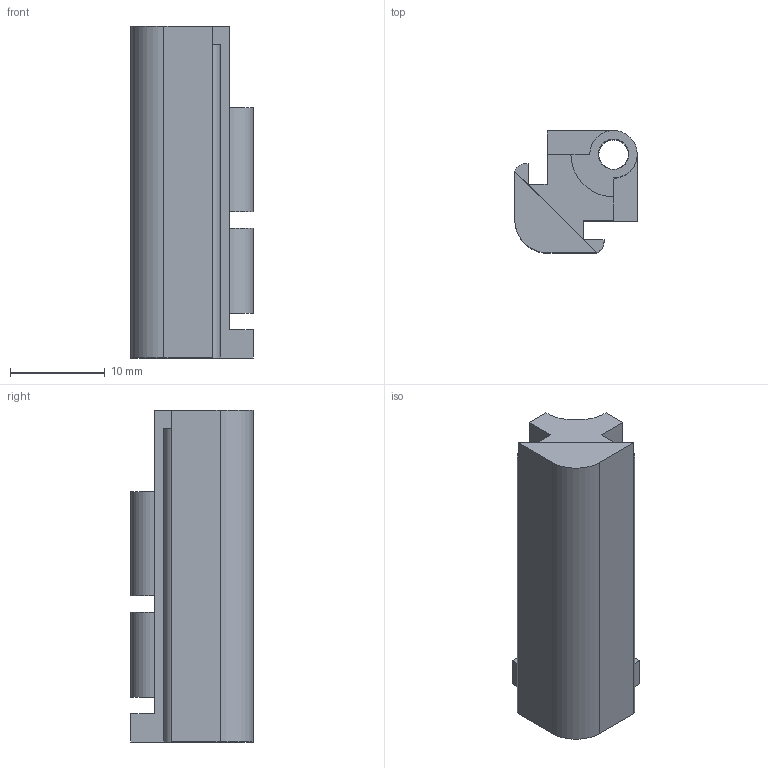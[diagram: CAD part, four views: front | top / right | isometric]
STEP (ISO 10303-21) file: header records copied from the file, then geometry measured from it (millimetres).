
FILE_DESCRIPTION(/* description */ (''),/* implementation_level */ '2;1');
FILE_NAME(/* name */ 'C:/Users/Ken.Diep/repos/hardware/Structure/Fusion/pillar v9.step',/* time_stamp */ '2019-08-21T11:30:23+01:00',/* author */ (''),/* organization */ (''),/* preprocessor_version */ 'ST-DEVELOPER v18',/* originating_system */ 'Autodesk Translation Framework v8.6.0.1094',/* authorisation */ '');
FILE_SCHEMA (('AUTOMOTIVE_DESIGN { 1 0 10303 214 3 1 1 }'));
Length unit declared in the file: millimetre
Products named in the file (1): pillar
Bounding box: 12.91 x 12.91 x 35 mm (x, y, z)
Volume: 3170 mm3; surface area: 3214.6 mm2
Topology: 4 solids, 4 shells, 44 faces, 109 edges, 73 vertices
Faces by surface type: plane 32, cylinder 12
Full cylindrical faces by diameter (mm): 3.1 x1, 3.2 x2
Entity records: 1348 total; most frequent: CARTESIAN_POINT 227, DIRECTION 224, ORIENTED_EDGE 218, EDGE_CURVE 109, LINE 84, VECTOR 84, VERTEX_POINT 73, AXIS2_PLACEMENT_3D 70
